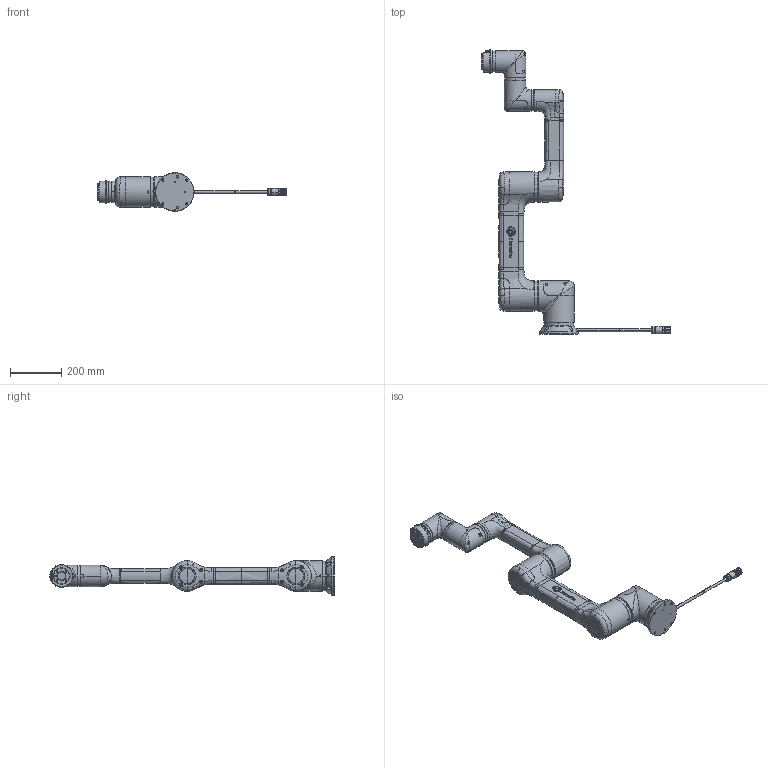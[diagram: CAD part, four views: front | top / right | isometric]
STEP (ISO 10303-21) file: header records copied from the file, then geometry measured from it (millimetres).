
FILE_DESCRIPTION((''),'2;1');
FILE_NAME('BODY_HCR5A_R00-3D_ASM','2019-11-15T',('jaedong1.kim'),(''),'PRO/ENGINEER BY PARAMETRIC TECHNOLOGY CORPORATION, 2015440','PRO/ENGINEER BY PARAMETRIC TECHNOLOGY CORPORATION, 2015440','');
FILE_SCHEMA(('AUTOMOTIVE_DESIGN { 1 0 10303 214 1 1 1 1 }'));
Products named in the file (30): HCR5A_BASE_R1; HCR5A_BASE_GR_R1; HCR3A_5A_BODY_CONNECTOR; HCR5A_BASE_ASSY_R1_ASM; HCR5A_J1_HOUSING_R1; HCR5A_J1_HOUSING_COVER_R1; HCR_COVER_BOLT_1; HCR5A_J1_J2_J3_ROTATION_RING_R1; HCR5A_J1_J2_J3_RUB_BAND_R1; HCR5A_J1_ASSY_R1_ASM; HCR5A_J2_J3_HOUSING_R1; HCR5A_J2_J3_HOUSING_COVER_R1; HCR5A_J2_ASSY_R1_ASM; HCR5A_UPPER_ARM_R1; HCR5A_J3_ASSY_R1_ASM; HCR5A_ELBOW_ARM_R1; HCR5A_J4_HOUSING_R1; HCR5A_J4_HOUSING_COVER_R1; HCR5A_J4_J5_J6_ROTATION_RING_R1; HCR5A_J4_J5_J6_RUB_BAND_R1; HCR5A_J4_ASSY_R1_ASM; HCR5A_J5_J6_HOUSING_R1; HCR5A_J5_J6_HOUSING_COVER_R1; HCR_COVER_BOLT_2; HCR5A_J5_J6_ASSY_R1_ASM; HCR5A_TOOL_IO_MOUNT_R1; HCR_TOOL_IO_CON_ECAT; HCR_TOOL_IO_CON_GPIO; HCR5A_TOOL_IO_ASSY_R1_ASM; BODY_HCR5A_R00-3D_ASM
Assembly tree (57 placements, depth 3):
  BODY_HCR5A_R00-3D_ASM
    HCR5A_BASE_ASSY_R1_ASM
      HCR5A_BASE_R1
      HCR5A_BASE_GR_R1
      HCR3A_5A_BODY_CONNECTOR
    HCR5A_J1_ASSY_R1_ASM
      HCR5A_J1_HOUSING_R1
      HCR5A_J1_HOUSING_COVER_R1
      HCR_COVER_BOLT_1  x4
      HCR5A_J1_J2_J3_ROTATION_RING_R1
      HCR5A_J1_J2_J3_RUB_BAND_R1
    HCR5A_J2_ASSY_R1_ASM
      HCR5A_J2_J3_HOUSING_R1
      HCR5A_J2_J3_HOUSING_COVER_R1
      HCR_COVER_BOLT_1  x4
      HCR5A_J1_J2_J3_ROTATION_RING_R1
      HCR5A_J1_J2_J3_RUB_BAND_R1
    HCR5A_UPPER_ARM_R1
    HCR5A_J3_ASSY_R1_ASM
      HCR5A_J2_J3_HOUSING_R1
      HCR5A_J2_J3_HOUSING_COVER_R1
      HCR_COVER_BOLT_1  x4
      HCR5A_J1_J2_J3_ROTATION_RING_R1
      HCR5A_J1_J2_J3_RUB_BAND_R1
    HCR5A_ELBOW_ARM_R1
    HCR5A_J4_ASSY_R1_ASM
      HCR5A_J4_HOUSING_R1
      HCR5A_J4_HOUSING_COVER_R1
      HCR_COVER_BOLT_1  x4
      HCR5A_J4_J5_J6_ROTATION_RING_R1
      HCR5A_J4_J5_J6_RUB_BAND_R1
    HCR5A_J5_J6_ASSY_R1_ASM  x2
      HCR5A_J5_J6_HOUSING_R1
      HCR5A_J5_J6_HOUSING_COVER_R1
      HCR_COVER_BOLT_2
      HCR5A_J4_J5_J6_ROTATION_RING_R1
      HCR5A_J4_J5_J6_RUB_BAND_R1
    HCR5A_TOOL_IO_ASSY_R1_ASM
      HCR5A_TOOL_IO_MOUNT_R1
      HCR_TOOL_IO_CON_ECAT
      HCR_TOOL_IO_CON_GPIO  x2
Bounding box: 740.01 x 1109.5 x 150 mm (x, y, z)
Volume: 12549886.5 mm3; surface area: 1007055.1 mm2
Topology: 59 solids, 114 shells, 3253 faces, 8352 edges, 5338 vertices
Faces by surface type: plane 1332, cylinder 926, cone 386, bspline 240, torus 182, extrusion 127, sphere 46, revolution 14
Entity records: 124349 total; most frequent: CARTESIAN_POINT 39937, ORIENTED_EDGE 11332, DIRECTION 10063, PRESENTATION_STYLE_ASSIGNMENT 6408, EDGE_CURVE 5720, STYLED_ITEM 5331, CURVE_STYLE 4937, AXIS2_PLACEMENT_3D 4005
